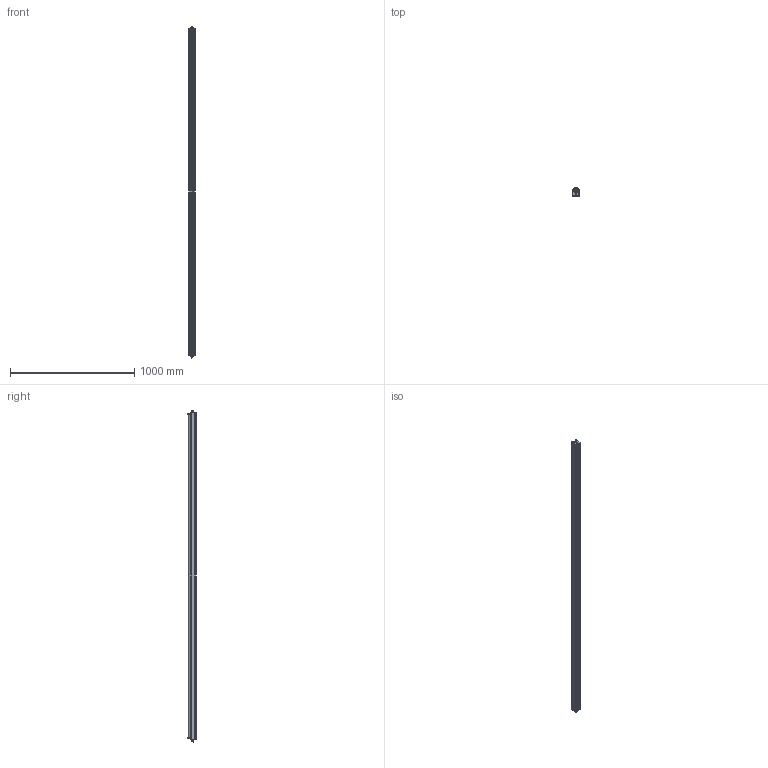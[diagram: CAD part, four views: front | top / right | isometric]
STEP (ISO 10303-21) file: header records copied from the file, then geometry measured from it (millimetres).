
FILE_DESCRIPTION (( 'STEP AP214' ), '1' );
FILE_NAME ('EFFI-FLEX2-2600-ZZZ-CYL-2M12P.STEP', '2026-06-18T10:17:53', ( '' ), ( '' ), 'SwSTEP 2.0', 'SolidWorks 2025', '' );
FILE_SCHEMA (( 'AUTOMOTIVE_DESIGN' ));
Length unit declared in the file: millimetre
Products named in the file (6): 000605; 017872-MODELE GENERIQUE AVEC LENTILLE_2600; 001113; EFFI-FLEX2-2600-ZZZ-CYL-2M12P; 018302-MODELE GENERIQUE; 018941-MODELE GENERIQUE
Assembly tree (13 placements, depth 2):
  EFFI-FLEX2-2600-ZZZ-CYL-2M12P
    017872-MODELE GENERIQUE AVEC LENTILLE_2600
    018302-MODELE GENERIQUE  x2
    000605  x6
    018941-MODELE GENERIQUE  x2
    001113  x2
Bounding box: 51.01 x 66.47 x 2668.96 mm (x, y, z)
Volume: 6817907.7 mm3; surface area: 1112737.4 mm2
Topology: 21 solids, 29 shells, 1236 faces, 3082 edges, 1958 vertices
Faces by surface type: plane 536, cylinder 316, cone 194, bspline 114, torus 60, sphere 16
Entity records: 22367 total; most frequent: CARTESIAN_POINT 6360, ORIENTED_EDGE 3316, DIRECTION 3271, EDGE_CURVE 1658, AXIS2_PLACEMENT_3D 1185, VERTEX_POINT 1075, LINE 901, VECTOR 901
